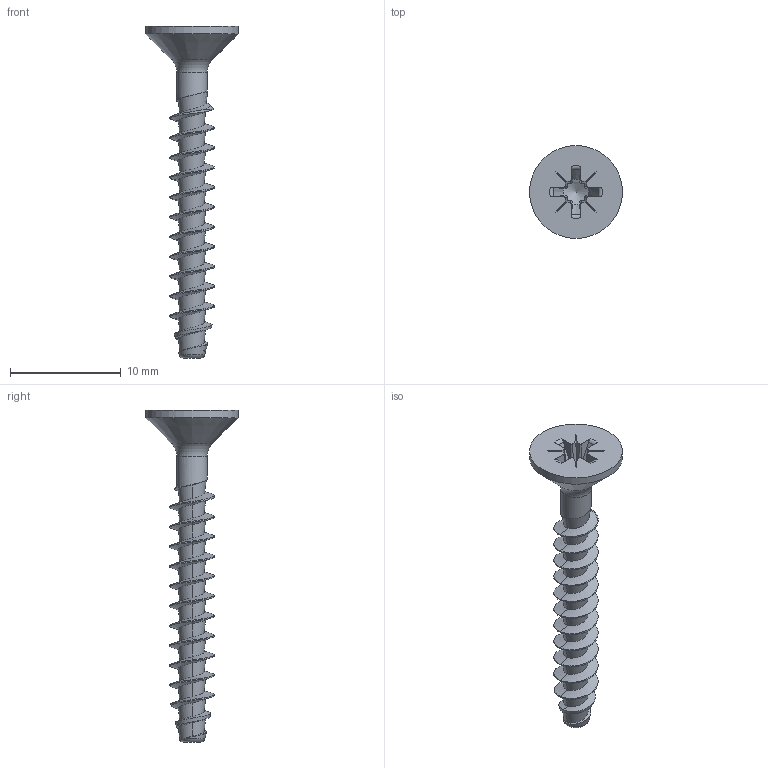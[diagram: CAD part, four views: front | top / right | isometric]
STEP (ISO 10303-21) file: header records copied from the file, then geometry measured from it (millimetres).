
FILE_DESCRIPTION(/* description */ (''),/* implementation_level */ '2;1');
FILE_NAME(/* name */ 'KN1033-STS-Neu-40x30-Z2.step',/* time_stamp */ '2017-10-20T11:50:27+02:00',/* author */ (''),/* organization */ (''),/* preprocessor_version */ 'ST-DEVELOPER v16',/* originating_system */ 'SIEMENS PLM Software NX 10.0',/* authorisation */ '');
FILE_SCHEMA (('AUTOMOTIVE_DESIGN { 1 0 10303 214 3 1 1 1 }'));
Length unit declared in the file: millimetre
Products named in the file (1): KN1033-STS-Neu-40x30-Z2
Bounding box: 8.4 x 8.4 x 30 mm (x, y, z)
Volume: 251.5 mm3; surface area: 537.3 mm2
Topology: 1 solids, 1 shells, 94 faces, 243 edges, 151 vertices
Faces by surface type: bspline 42, plane 26, cylinder 12, cone 8, torus 6
Full cylindrical faces by diameter (mm): 2.76 x1, 8.4 x1
Entity records: 5562 total; most frequent: CARTESIAN_POINT 3649, ORIENTED_EDGE 460, DIRECTION 257, EDGE_CURVE 230, VERTEX_POINT 146, B_SPLINE_CURVE_WITH_KNOTS 106, EDGE_LOOP 99, LINE 95
